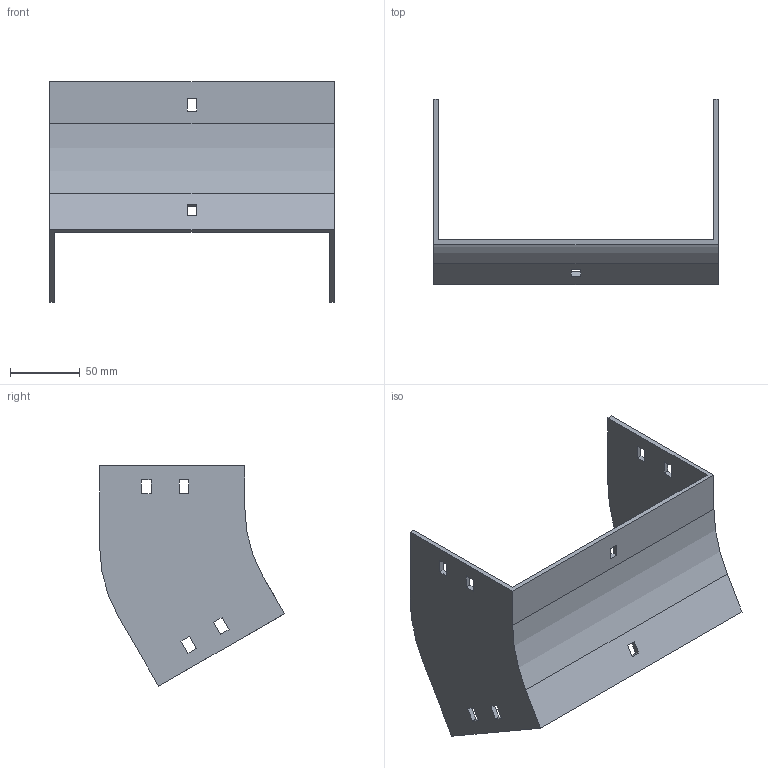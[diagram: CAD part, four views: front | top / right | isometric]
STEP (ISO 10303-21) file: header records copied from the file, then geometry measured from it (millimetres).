
FILE_DESCRIPTION (( 'STEP AP214' ), '1' );
FILE_NAME ('35F1D200.step', '2025-02-21T12:48:53', ( '' ), ( '' ), 'SwSTEP 2.0', 'SolidWorks 2023', '' );
FILE_SCHEMA (( 'AUTOMOTIVE_DESIGN' ));
Length unit declared in the file: millimetre
Products named in the file (1): 35F1D200
Bounding box: 204 x 132.4 x 157.98 mm (x, y, z)
Volume: 178714.8 mm3; surface area: 107297 mm2
Topology: 1 solids, 1 shells, 58 faces, 168 edges, 112 vertices
Faces by surface type: plane 54, cylinder 4
Entity records: 1943 total; most frequent: CARTESIAN_POINT 339, ORIENTED_EDGE 336, DIRECTION 294, EDGE_CURVE 168, LINE 160, VECTOR 160, VERTEX_POINT 112, EDGE_LOOP 78
